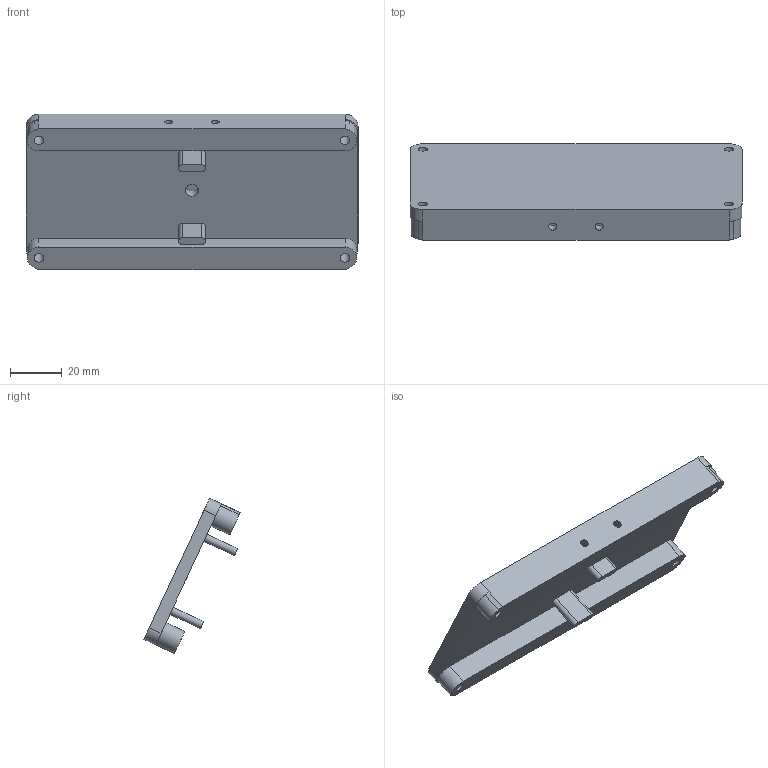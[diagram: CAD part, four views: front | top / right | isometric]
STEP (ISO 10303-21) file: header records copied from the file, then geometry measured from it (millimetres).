
FILE_DESCRIPTION(/* description */ ('STEP AP242 Edition 2','CAx-IF Rec.Pracs.---Representation and Presentation of Product Manufacturing Information (PMI)---4.0---2014-10-13','CAx-IF Rec.Pracs.---3D Tessellated Geometry---0.4---2014-09-14','2;1','CAx-IF Rec.Pracs.---User Defined Attributes---1.5---2016-08-15'),/* implementation_level */ '2;1');
FILE_NAME(/* name */ 'main - back plate',/* time_stamp */ '2026-11-08T20:03:43Z',/* author */ (''),/* organization */ (''),/* preprocessor_version */ 'ST-DEVELOPER v20',/* originating_system */ 'ONSHAPE BY PTC INC, 1.223',/* authorisation */ ' ');
FILE_SCHEMA (('AP242_MANAGED_MODEL_BASED_3D_ENGINEERING_MIM_LF { 1 0 10303 442 3 1 4 }'));
Length unit declared in the file: metre
Products named in the file (1): back plate
Bounding box: 127.85 x 37.14 x 59.87 mm (x, y, z)
Volume: 57269.3 mm3; surface area: 22644.3 mm2
Topology: 1 solids, 1 shells, 42 faces, 107 edges, 72 vertices
Faces by surface type: plane 23, cylinder 19
Full cylindrical faces by diameter (mm): 3 x2, 3.6 x4, 5 x1
Entity records: 1234 total; most frequent: DIRECTION 218, CARTESIAN_POINT 203, ORIENTED_EDGE 188, EDGE_CURVE 94, AXIS2_PLACEMENT_3D 81, VERTEX_POINT 66, EDGE_LOOP 62, FACE_BOUND 62
